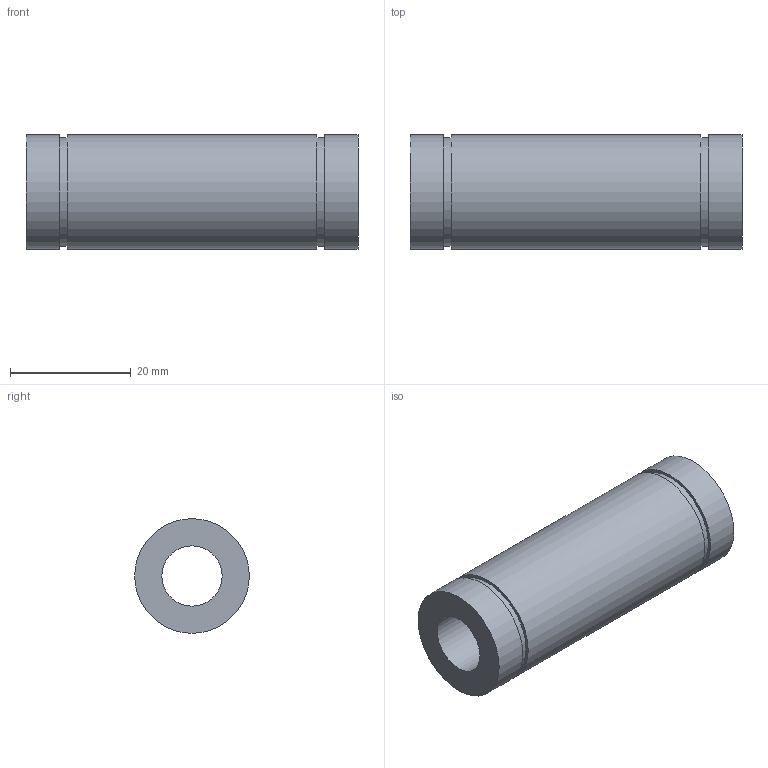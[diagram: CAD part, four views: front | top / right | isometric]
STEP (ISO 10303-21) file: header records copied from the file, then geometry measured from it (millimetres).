
FILE_DESCRIPTION(/* description */ ('Unknown'),/* implementation_level */ '2;1');
FILE_NAME(/* name */ 'LM10LUU',/* time_stamp */ '2025-02-03T14:52:44+08:00',/* author */ ('Unknown'),/* organization */ ('Unknown'),/* preprocessor_version */ 'ST-DEVELOPER v18.102',/* originating_system */ 'Solid Edge',/* authorisation */ 'Unknown');
FILE_SCHEMA (('AUTOMOTIVE_DESIGN {1 0 10303 214 3 1 1}'));
Length unit declared in the file: millimetre
Products named in the file (1): LM10LUU
Bounding box: 55 x 19 x 19 mm (x, y, z)
Volume: 11198.8 mm3; surface area: 5528.9 mm2
Topology: 1 solids, 1 shells, 12 faces, 20 edges, 14 vertices
Faces by surface type: cylinder 6, plane 6
Full cylindrical faces by diameter (mm): 10 x1, 18 x2, 19 x3
Entity records: 278 total; most frequent: DIRECTION 50, CARTESIAN_POINT 37, AXIS2_PLACEMENT_3D 25, ORIENTED_EDGE 24, EDGE_LOOP 24, FACE_BOUND 24, EDGE_CURVE 12, VERTEX_POINT 12
